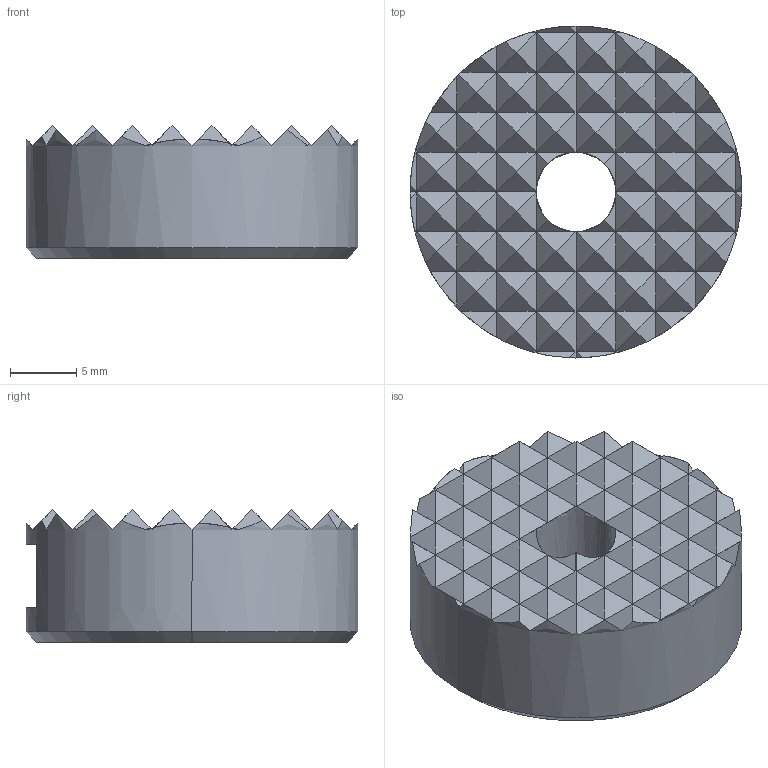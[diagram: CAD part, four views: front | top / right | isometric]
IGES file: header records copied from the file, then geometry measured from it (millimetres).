
Start section: SolidWorks IGES file using analytic representation for surfaces
Global section: file name: X:\11_SW2020-Inv2020\00_全2021-11新製品まで\h\HS-250\hs-250.IGS; native system: SolidWorks 2020; preprocessor: SolidWorks 2020; author: ImaoCorp; date: 211026.101705; units: millimetre
Bounding box: 25 x 25 x 10 mm (x, y, z)
Surface area: 1948.5 mm2 (no closed solid volume)
Topology: 0 solids, 0 shells, 268 faces, 1054 edges, 1054 vertices
Faces by surface type: bspline 260, revolution 8
